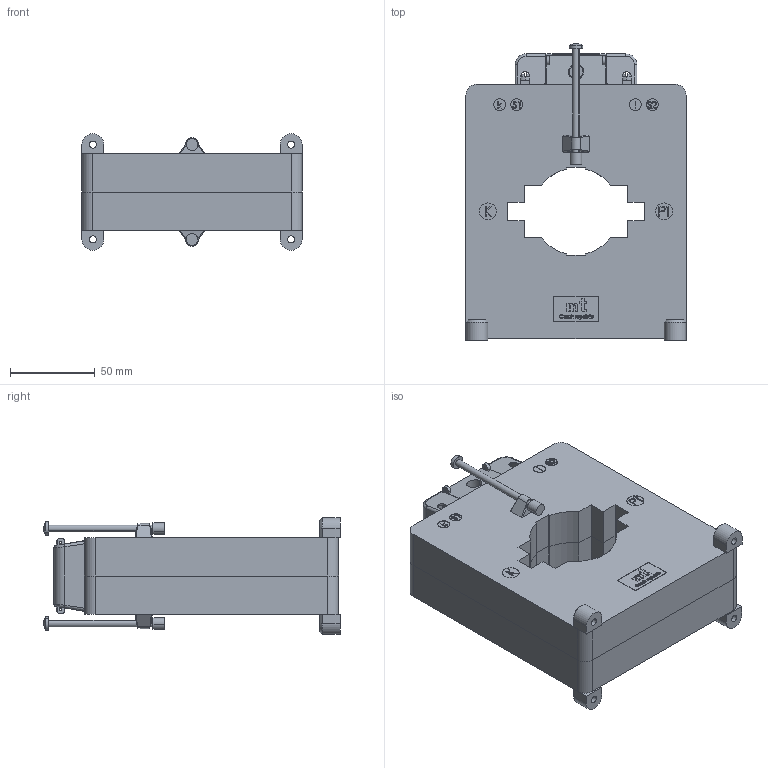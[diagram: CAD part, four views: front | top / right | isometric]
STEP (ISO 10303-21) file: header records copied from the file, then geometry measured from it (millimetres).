
FILE_DESCRIPTION (( 'STEP AP214' ), '1' );
FILE_NAME ('CLA 3.1.STEP', '2024-09-30T18:43:02', ( '' ), ( '' ), 'SwSTEP 2.0', 'SolidWorks 2024', '' );
FILE_SCHEMA (( 'AUTOMOTIVE_DESIGN' ));
Length unit declared in the file: millimetre
Products named in the file (11): Insulating cap; Secondary terminal; Plastic mounting foot; Front plastic case CLA 3.1; Screw M5x8; CLA 3.1; Secondary terminal cover CLA; Screw 4x70; Back plastic case CLA 3.1; Rivet 20; Tape label CLA 3.1
Assembly tree (19 placements, depth 2):
  CLA 3.1
    Front plastic case CLA 3.1
    Back plastic case CLA 3.1
    Tape label CLA 3.1
    Secondary terminal cover CLA
    Plastic mounting foot  x4
    Secondary terminal  x2
    Screw M5x8  x2
    Screw 4x70  x2
    Rivet 20  x3
    Insulating cap  x2
Bounding box: 130 x 175 x 69 mm (x, y, z)
Volume: 787217.4 mm3; surface area: 134027.2 mm2
Topology: 19 solids, 22 shells, 1383 faces, 3623 edges, 2388 vertices
Faces by surface type: plane 771, bspline 319, cylinder 233, cone 36, sphere 12, torus 12
Entity records: 51976 total; most frequent: CARTESIAN_POINT 23951, ORIENTED_EDGE 6180, DIRECTION 4462, EDGE_CURVE 3090, VECTOR 2052, LINE 2052, VERTEX_POINT 2046, EDGE_LOOP 1290
